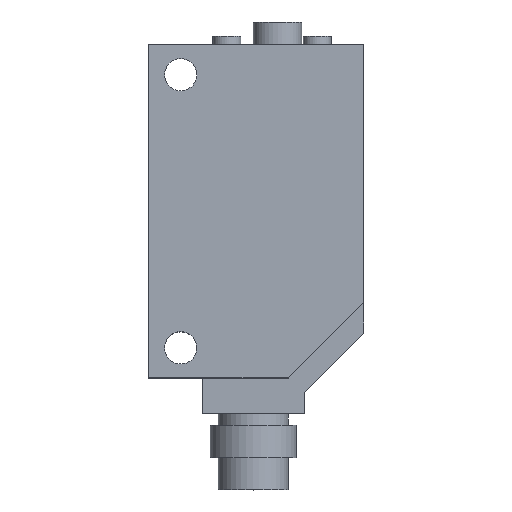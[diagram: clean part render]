
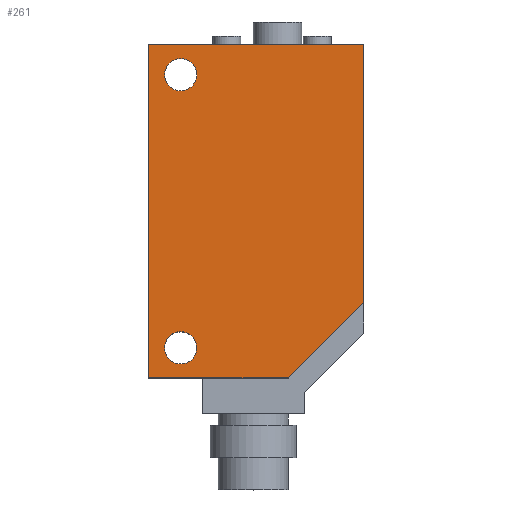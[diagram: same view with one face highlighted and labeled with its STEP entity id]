
A CAD part, top view. The second image highlights one B-rep face of the part: STEP entity #261.
In plain terms, the highlighted planar face has unit normal (0, 0, 1).
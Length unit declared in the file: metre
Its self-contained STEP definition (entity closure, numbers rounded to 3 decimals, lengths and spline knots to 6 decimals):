
#261=ADVANCED_FACE('',(#524,#525,#526),#527,.T.);
#524=FACE_OUTER_BOUND('',#790,.T.);
#525=FACE_BOUND('',#791,.T.);
#526=FACE_BOUND('',#792,.T.);
#527=PLANE('',#793);
#790=EDGE_LOOP('',(#1318,#1319,#1320,#1321,#1322));
#791=EDGE_LOOP('',(#1323));
#792=EDGE_LOOP('',(#1324));
#793=AXIS2_PLACEMENT_3D('',#1325,#1326,#1327);
#1318=ORIENTED_EDGE('',*,*,#1432,.T.);
#1319=ORIENTED_EDGE('',*,*,#1571,.T.);
#1320=ORIENTED_EDGE('',*,*,#1565,.T.);
#1321=ORIENTED_EDGE('',*,*,#1456,.T.);
#1322=ORIENTED_EDGE('',*,*,#1553,.T.);
#1323=ORIENTED_EDGE('',*,*,#1612,.F.);
#1324=ORIENTED_EDGE('',*,*,#1592,.F.);
#1325=CARTESIAN_POINT('',(-0.003,-0.0028,0.0054));
#1326=DIRECTION('',(0.0,0.0,1.0));
#1327=DIRECTION('',(1.0,0.0,0.0));
#1432=EDGE_CURVE('',#1649,#1650,#1651,.T.);
#1456=EDGE_CURVE('',#1692,#1693,#1694,.T.);
#1553=EDGE_CURVE('',#1693,#1649,#1845,.T.);
#1565=EDGE_CURVE('',#1862,#1692,#1863,.T.);
#1571=EDGE_CURVE('',#1650,#1862,#1871,.T.);
#1592=EDGE_CURVE('',#1894,#1894,#1895,.T.);
#1612=EDGE_CURVE('',#1916,#1916,#1917,.T.);
#1649=VERTEX_POINT('',#1970);
#1650=VERTEX_POINT('',#1971);
#1651=LINE('',#1972,#1973);
#1692=VERTEX_POINT('',#2026);
#1693=VERTEX_POINT('',#2027);
#1694=LINE('',#2028,#2029);
#1845=LINE('',#2235,#2236);
#1862=VERTEX_POINT('',#2257);
#1863=LINE('',#2258,#2259);
#1871=LINE('',#2268,#2269);
#1894=VERTEX_POINT('',#2302);
#1895=CIRCLE('',#2303,0.0015);
#1916=VERTEX_POINT('',#2329);
#1917=CIRCLE('',#2330,0.0015);
#1970=CARTESIAN_POINT('',(-0.003,0.0282,0.0054));
#1971=CARTESIAN_POINT('',(-0.003,-0.0028,0.0054));
#1972=CARTESIAN_POINT('',(-0.003,0.0282,0.0054));
#1973=VECTOR('',#2394,1.0);
#2026=CARTESIAN_POINT('',(0.017,0.0042,0.0054));
#2027=CARTESIAN_POINT('',(0.017,0.0282,0.0054));
#2028=CARTESIAN_POINT('',(0.017,0.0282,0.0054));
#2029=VECTOR('',#2425,1.0);
#2235=CARTESIAN_POINT('',(-0.003,0.0282,0.0054));
#2236=VECTOR('',#2529,1.0);
#2257=CARTESIAN_POINT('',(0.01,-0.0028,0.0054));
#2258=CARTESIAN_POINT('',(0.017,0.0042,0.0054));
#2259=VECTOR('',#2546,1.0);
#2268=CARTESIAN_POINT('',(-0.003,-0.0028,0.0054));
#2269=VECTOR('',#2554,1.0);
#2302=CARTESIAN_POINT('',(0.0015,0.0,0.0054));
#2303=AXIS2_PLACEMENT_3D('',#2568,#2569,#2570);
#2329=CARTESIAN_POINT('',(0.0015,0.0254,0.0054));
#2330=AXIS2_PLACEMENT_3D('',#2579,#2580,#2581);
#2394=DIRECTION('',(0.0,-1.0,0.0));
#2425=DIRECTION('',(0.0,1.0,0.0));
#2529=DIRECTION('',(-1.0,0.0,0.0));
#2546=DIRECTION('',(0.707,0.707,0.0));
#2554=DIRECTION('',(1.0,0.0,0.0));
#2568=CARTESIAN_POINT('',(0.0,0.0,0.0054));
#2569=DIRECTION('',(0.0,0.0,1.0));
#2570=DIRECTION('',(1.0,0.0,0.0));
#2579=CARTESIAN_POINT('',(0.0,0.0254,0.0054));
#2580=DIRECTION('',(0.0,0.0,1.0));
#2581=DIRECTION('',(1.0,0.0,0.0));
